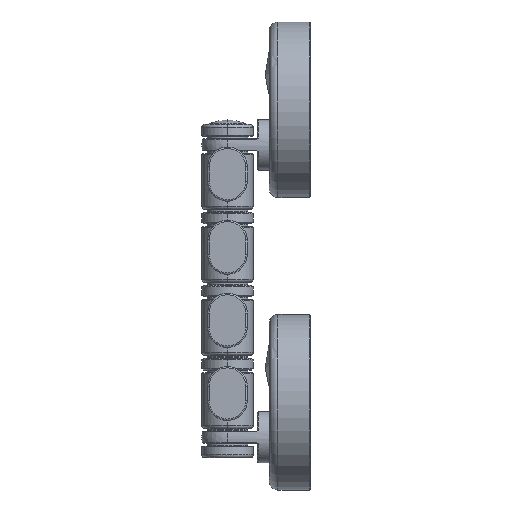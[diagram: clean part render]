
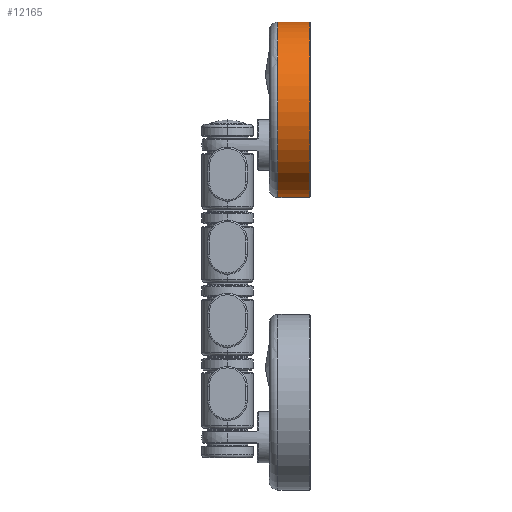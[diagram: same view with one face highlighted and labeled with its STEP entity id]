
A CAD part, left-side view. The second image highlights one B-rep face of the part: STEP entity #12165.
In plain terms, the highlighted cylindrical face has radius 30 mm (diameter 60 mm), a partial arc.
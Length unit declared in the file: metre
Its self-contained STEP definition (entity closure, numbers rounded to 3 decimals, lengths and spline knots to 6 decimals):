
#11806=VERTEX_POINT('',#11807);
#11807=CARTESIAN_POINT('',(0.0,-0.0128,-0.018));
#11814=VERTEX_POINT('',#11815);
#11815=CARTESIAN_POINT('',(0.0,-0.0128,0.042));
#11974=VERTEX_POINT('',#11975);
#11975=CARTESIAN_POINT('',(0.0,-0.002,0.042));
#11976=VERTEX_POINT('',#11977);
#11977=CARTESIAN_POINT('',(0.0,-0.002,-0.018));
#12086=CYLINDRICAL_SURFACE('',#12087,0.03);
#12087=AXIS2_PLACEMENT_3D('',#12088,#12089,#12090);
#12088=CARTESIAN_POINT('',(0.0,0.0,0.012));
#12089=DIRECTION('',(0.0,1.0,0.0));
#12090=DIRECTION('',(0.0,0.0,1.0));
#12095=EDGE_CURVE('',#11806,#11976,#12096,.T.);
#12096=LINE('',#12097,#12098);
#12097=CARTESIAN_POINT('',(0.0,0.0,-0.018));
#12098=VECTOR('',#12099,1.0);
#12099=DIRECTION('',(0.0,1.0,0.0));
#12102=EDGE_CURVE('',#11814,#11974,#12103,.T.);
#12103=LINE('',#12104,#12105);
#12104=CARTESIAN_POINT('',(0.0,-0.013,0.042));
#12105=VECTOR('',#12106,1.0);
#12106=DIRECTION('',(0.0,1.0,0.0));
#12164=FACE_OUTER_BOUND('',#12166,.T.);
#12165=ADVANCED_FACE('',(#12164),#12086,.T.);
#12166=EDGE_LOOP('',(#12167,#12168,#12175,#12176));
#12167=ORIENTED_EDGE('',*,*,#12095,.F.);
#12168=ORIENTED_EDGE('',*,*,#12170,.T.);
#12169=CARTESIAN_POINT('',(0.0,-0.0128,-0.018));
#12170=EDGE_CURVE('',#11806,#11814,#12171,.T.);
#12171=(B_SPLINE_CURVE(3,(#12169,#12172,#12173,#12174),.UNSPECIFIED.,.F.,
  .U.)B_SPLINE_CURVE_WITH_KNOTS((4,4),(0.0,1.0),.UNSPECIFIED.)BOUNDED_CURVE(
  )CURVE()GEOMETRIC_REPRESENTATION_ITEM()RATIONAL_B_SPLINE_CURVE((1.0,
  0.333,0.333,1.0))REPRESENTATION_ITEM(''));
#12172=CARTESIAN_POINT('',(-0.06,-0.0128,-0.018));
#12173=CARTESIAN_POINT('',(-0.06,-0.0128,0.042));
#12174=CARTESIAN_POINT('',(0.0,-0.0128,0.042));
#12175=ORIENTED_EDGE('',*,*,#12102,.T.);
#12176=ORIENTED_EDGE('',*,*,#12178,.F.);
#12177=CARTESIAN_POINT('',(0.0,-0.002,-0.018));
#12178=EDGE_CURVE('',#11976,#11974,#12179,.T.);
#12179=(B_SPLINE_CURVE(3,(#12177,#12180,#12181,#12182),.UNSPECIFIED.,.F.,
  .U.)B_SPLINE_CURVE_WITH_KNOTS((4,4),(0.0,1.0),.UNSPECIFIED.)BOUNDED_CURVE(
  )CURVE()GEOMETRIC_REPRESENTATION_ITEM()RATIONAL_B_SPLINE_CURVE((1.0,
  0.333,0.333,1.0))REPRESENTATION_ITEM(''));
#12180=CARTESIAN_POINT('',(-0.06,-0.002,-0.018));
#12181=CARTESIAN_POINT('',(-0.06,-0.002,0.042));
#12182=CARTESIAN_POINT('',(0.0,-0.002,0.042));
